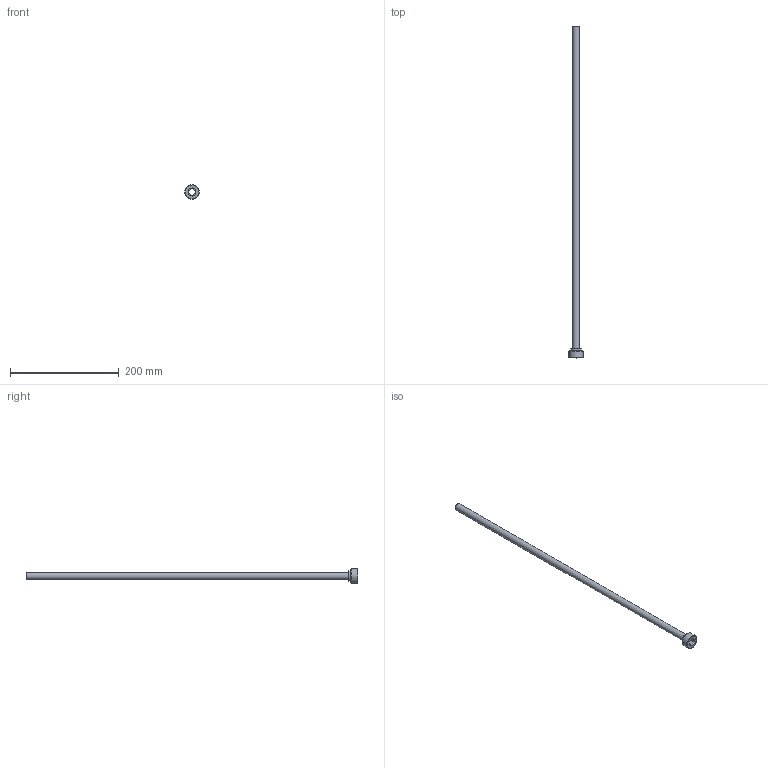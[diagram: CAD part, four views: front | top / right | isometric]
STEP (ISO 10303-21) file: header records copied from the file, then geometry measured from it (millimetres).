
FILE_DESCRIPTION(/* description */ (''),/* implementation_level */ '2;1');
FILE_NAME(/* name */ 'C:/Users/drich/Desktop/PT34-500-24 v1.step',/* time_stamp */ '2019-12-27T15:48:59-06:00',/* author */ (''),/* organization */ (''),/* preprocessor_version */ 'ST-DEVELOPER v18',/* originating_system */ 'Autodesk Translation Framework v8.12.0.6',/* authorisation */ '');
FILE_SCHEMA (('AUTOMOTIVE_DESIGN { 1 0 10303 214 3 1 1 }'));
Length unit declared in the file: inch
Products named in the file (1): PT34-500-24
Bounding box: 26.3 x 609.6 x 26.3 mm (x, y, z)
Volume: 21382.8 mm3; surface area: 47509.7 mm2
Topology: 1 solids, 1 shells, 19 faces, 48 edges, 34 vertices
Faces by surface type: plane 11, cylinder 4, torus 2, cone 2
Full cylindrical faces by diameter (mm): 11.278 x1, 12.7 x1, 19.05 x1, 26.299 x1
Entity records: 633 total; most frequent: DIRECTION 112, CARTESIAN_POINT 102, ORIENTED_EDGE 96, EDGE_CURVE 48, AXIS2_PLACEMENT_3D 44, VERTEX_POINT 34, CIRCLE 24, EDGE_LOOP 24
